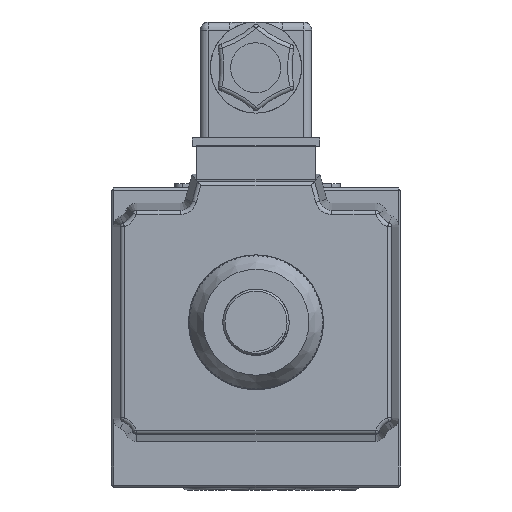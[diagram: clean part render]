
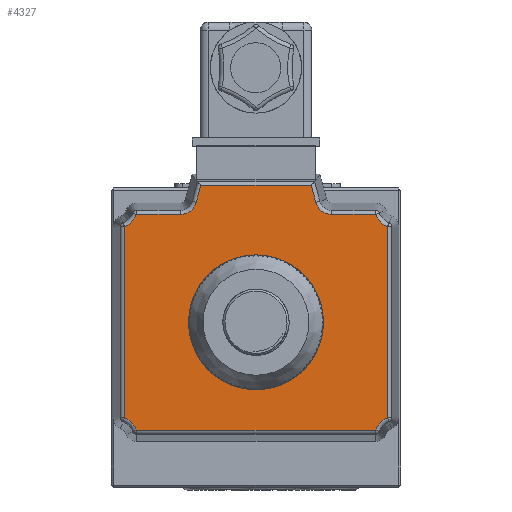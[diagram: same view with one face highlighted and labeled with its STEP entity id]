
A CAD part, left-side view. The second image highlights one B-rep face of the part: STEP entity #4327.
In plain terms, the highlighted planar face has unit normal (-1, 0, 0).
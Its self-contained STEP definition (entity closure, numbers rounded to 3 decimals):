
#4327=ADVANCED_FACE('',(#10130,#10131),#5651,.T.);
#5651=PLANE('',#25733);
#6465=LINE('',#34953,#8323);
#6466=LINE('',#34958,#8324);
#6467=LINE('',#34966,#8325);
#6468=LINE('',#34974,#8326);
#6469=LINE('',#34982,#8327);
#6470=LINE('',#34990,#8328);
#6471=LINE('',#34994,#8329);
#6472=LINE('',#34996,#8330);
#8323=VECTOR('',#28239,1.);
#8324=VECTOR('',#28242,1.);
#8325=VECTOR('',#28249,1.);
#8326=VECTOR('',#28256,1.);
#8327=VECTOR('',#28263,1.);
#8328=VECTOR('',#28270,1.);
#8329=VECTOR('',#28273,1.);
#8330=VECTOR('',#28274,1.);
#10130=FACE_BOUND('',#10552,.T.);
#10131=FACE_BOUND('',#10553,.T.);
#10552=EDGE_LOOP('',(#13291,#13292,#13293,#13294,#13295,#13296,#13297,#13298,
#13299,#13300,#13301,#13302,#13303,#13304,#13305,#13306,#13307,#13308,#13309,
#13310,#13311,#13312));
#10553=EDGE_LOOP('',(#13313));
#12093=CIRCLE('',#25718,3.959);
#12094=CIRCLE('',#25719,0.041);
#12095=CIRCLE('',#25720,4.959);
#12096=CIRCLE('',#25721,0.041);
#12097=CIRCLE('',#25722,0.041);
#12098=CIRCLE('',#25723,4.959);
#12099=CIRCLE('',#25724,0.041);
#12100=CIRCLE('',#25725,0.041);
#12101=CIRCLE('',#25726,4.959);
#12102=CIRCLE('',#25727,0.041);
#12103=CIRCLE('',#25728,0.041);
#12104=CIRCLE('',#25729,4.959);
#12105=CIRCLE('',#25730,0.041);
#12106=CIRCLE('',#25731,3.959);
#12107=CIRCLE('',#25732,13.);
#13291=ORIENTED_EDGE('',*,*,#22098,.T.);
#13292=ORIENTED_EDGE('',*,*,#22099,.T.);
#13293=ORIENTED_EDGE('',*,*,#22100,.T.);
#13294=ORIENTED_EDGE('',*,*,#22101,.T.);
#13295=ORIENTED_EDGE('',*,*,#22102,.T.);
#13296=ORIENTED_EDGE('',*,*,#22103,.T.);
#13297=ORIENTED_EDGE('',*,*,#22104,.T.);
#13298=ORIENTED_EDGE('',*,*,#22105,.T.);
#13299=ORIENTED_EDGE('',*,*,#22106,.T.);
#13300=ORIENTED_EDGE('',*,*,#22107,.T.);
#13301=ORIENTED_EDGE('',*,*,#22108,.T.);
#13302=ORIENTED_EDGE('',*,*,#22109,.T.);
#13303=ORIENTED_EDGE('',*,*,#22110,.T.);
#13304=ORIENTED_EDGE('',*,*,#22111,.T.);
#13305=ORIENTED_EDGE('',*,*,#22112,.T.);
#13306=ORIENTED_EDGE('',*,*,#22113,.T.);
#13307=ORIENTED_EDGE('',*,*,#22114,.T.);
#13308=ORIENTED_EDGE('',*,*,#22115,.T.);
#13309=ORIENTED_EDGE('',*,*,#22116,.T.);
#13310=ORIENTED_EDGE('',*,*,#22117,.T.);
#13311=ORIENTED_EDGE('',*,*,#22118,.T.);
#13312=ORIENTED_EDGE('',*,*,#22119,.T.);
#13313=ORIENTED_EDGE('',*,*,#22120,.F.);
#19853=VERTEX_POINT('',#34954);
#19854=VERTEX_POINT('',#34955);
#19855=VERTEX_POINT('',#34957);
#19856=VERTEX_POINT('',#34959);
#19857=VERTEX_POINT('',#34961);
#19858=VERTEX_POINT('',#34963);
#19859=VERTEX_POINT('',#34965);
#19860=VERTEX_POINT('',#34967);
#19861=VERTEX_POINT('',#34969);
#19862=VERTEX_POINT('',#34971);
#19863=VERTEX_POINT('',#34973);
#19864=VERTEX_POINT('',#34975);
#19865=VERTEX_POINT('',#34977);
#19866=VERTEX_POINT('',#34979);
#19867=VERTEX_POINT('',#34981);
#19868=VERTEX_POINT('',#34983);
#19869=VERTEX_POINT('',#34985);
#19870=VERTEX_POINT('',#34987);
#19871=VERTEX_POINT('',#34989);
#19872=VERTEX_POINT('',#34991);
#19873=VERTEX_POINT('',#34993);
#19874=VERTEX_POINT('',#34995);
#19875=VERTEX_POINT('',#34998);
#22098=EDGE_CURVE('',#19853,#19854,#6465,.T.);
#22099=EDGE_CURVE('',#19854,#19855,#12093,.T.);
#22100=EDGE_CURVE('',#19855,#19856,#6466,.T.);
#22101=EDGE_CURVE('',#19856,#19857,#12094,.T.);
#22102=EDGE_CURVE('',#19857,#19858,#12095,.T.);
#22103=EDGE_CURVE('',#19858,#19859,#12096,.T.);
#22104=EDGE_CURVE('',#19859,#19860,#6467,.T.);
#22105=EDGE_CURVE('',#19860,#19861,#12097,.T.);
#22106=EDGE_CURVE('',#19861,#19862,#12098,.T.);
#22107=EDGE_CURVE('',#19862,#19863,#12099,.T.);
#22108=EDGE_CURVE('',#19863,#19864,#6468,.T.);
#22109=EDGE_CURVE('',#19864,#19865,#12100,.T.);
#22110=EDGE_CURVE('',#19865,#19866,#12101,.T.);
#22111=EDGE_CURVE('',#19866,#19867,#12102,.T.);
#22112=EDGE_CURVE('',#19867,#19868,#6469,.T.);
#22113=EDGE_CURVE('',#19868,#19869,#12103,.T.);
#22114=EDGE_CURVE('',#19869,#19870,#12104,.T.);
#22115=EDGE_CURVE('',#19870,#19871,#12105,.T.);
#22116=EDGE_CURVE('',#19871,#19872,#6470,.T.);
#22117=EDGE_CURVE('',#19872,#19873,#12106,.T.);
#22118=EDGE_CURVE('',#19873,#19874,#6471,.T.);
#22119=EDGE_CURVE('',#19874,#19853,#6472,.T.);
#22120=EDGE_CURVE('',#19875,#19875,#12107,.T.);
#25718=AXIS2_PLACEMENT_3D('',#34956,#28240,#28241);
#25719=AXIS2_PLACEMENT_3D('',#34960,#28243,#28244);
#25720=AXIS2_PLACEMENT_3D('',#34962,#28245,#28246);
#25721=AXIS2_PLACEMENT_3D('',#34964,#28247,#28248);
#25722=AXIS2_PLACEMENT_3D('',#34968,#28250,#28251);
#25723=AXIS2_PLACEMENT_3D('',#34970,#28252,#28253);
#25724=AXIS2_PLACEMENT_3D('',#34972,#28254,#28255);
#25725=AXIS2_PLACEMENT_3D('',#34976,#28257,#28258);
#25726=AXIS2_PLACEMENT_3D('',#34978,#28259,#28260);
#25727=AXIS2_PLACEMENT_3D('',#34980,#28261,#28262);
#25728=AXIS2_PLACEMENT_3D('',#34984,#28264,#28265);
#25729=AXIS2_PLACEMENT_3D('',#34986,#28266,#28267);
#25730=AXIS2_PLACEMENT_3D('',#34988,#28268,#28269);
#25731=AXIS2_PLACEMENT_3D('',#34992,#28271,#28272);
#25732=AXIS2_PLACEMENT_3D('',#34997,#28275,#28276);
#25733=AXIS2_PLACEMENT_3D('',#34999,#28277,#28278);
#28239=DIRECTION('',(0.,0.259,-0.966));
#28240=DIRECTION('',(1.,0.,0.));
#28241=DIRECTION('',(0.,-1.,0.));
#28242=DIRECTION('',(0.,1.,0.));
#28243=DIRECTION('',(-1.,0.,0.));
#28244=DIRECTION('',(0.,-1.,0.));
#28245=DIRECTION('',(1.,0.,0.));
#28246=DIRECTION('',(0.,-1.,0.));
#28247=DIRECTION('',(-1.,0.,0.));
#28248=DIRECTION('',(0.,-1.,0.));
#28249=DIRECTION('',(0.,0.,-1.));
#28250=DIRECTION('',(-1.,0.,0.));
#28251=DIRECTION('',(0.,-1.,0.));
#28252=DIRECTION('',(1.,0.,0.));
#28253=DIRECTION('',(0.,-1.,0.));
#28254=DIRECTION('',(-1.,0.,0.));
#28255=DIRECTION('',(0.,-1.,0.));
#28256=DIRECTION('',(0.,-1.,0.));
#28257=DIRECTION('',(-1.,0.,0.));
#28258=DIRECTION('',(0.,-1.,0.));
#28259=DIRECTION('',(1.,0.,0.));
#28260=DIRECTION('',(0.,-1.,0.));
#28261=DIRECTION('',(-1.,0.,0.));
#28262=DIRECTION('',(0.,-1.,0.));
#28263=DIRECTION('',(0.,0.,1.));
#28264=DIRECTION('',(-1.,0.,0.));
#28265=DIRECTION('',(0.,-1.,0.));
#28266=DIRECTION('',(1.,0.,0.));
#28267=DIRECTION('',(0.,-1.,0.));
#28268=DIRECTION('',(-1.,0.,0.));
#28269=DIRECTION('',(0.,-1.,0.));
#28270=DIRECTION('',(0.,1.,0.));
#28271=DIRECTION('',(1.,0.,0.));
#28272=DIRECTION('',(0.,-1.,0.));
#28273=DIRECTION('',(0.,0.259,0.966));
#28274=DIRECTION('',(0.,1.,0.));
#28275=DIRECTION('',(-1.,0.,0.));
#28276=DIRECTION('',(0.,-1.,0.));
#28277=DIRECTION('',(-1.,0.,0.));
#28278=DIRECTION('',(0.,1.,0.));
#34953=CARTESIAN_POINT('',(-41.7,63.613,-56.407));
#34954=CARTESIAN_POINT('',(-41.7,48.354,0.541));
#34955=CARTESIAN_POINT('',(-41.7,49.443,-3.525));
#34956=CARTESIAN_POINT('',(-41.7,53.267,-2.5));
#34957=CARTESIAN_POINT('',(-41.7,53.267,-6.459));
#34958=CARTESIAN_POINT('',(-41.7,66.75,-6.459));
#34959=CARTESIAN_POINT('',(-41.7,63.816,-6.459));
#34960=CARTESIAN_POINT('',(-41.7,63.816,-6.5));
#34961=CARTESIAN_POINT('',(-41.7,63.855,-6.486));
#34962=CARTESIAN_POINT('',(-41.7,68.5,-4.75));
#34963=CARTESIAN_POINT('',(-41.7,66.764,-9.395));
#34964=CARTESIAN_POINT('',(-41.7,66.75,-9.434));
#34965=CARTESIAN_POINT('',(-41.7,66.791,-9.434));
#34966=CARTESIAN_POINT('',(-41.7,66.791,-55.566));
#34967=CARTESIAN_POINT('',(-41.7,66.791,-55.566));
#34968=CARTESIAN_POINT('',(-41.7,66.75,-55.566));
#34969=CARTESIAN_POINT('',(-41.7,66.764,-55.605));
#34970=CARTESIAN_POINT('',(-41.7,68.5,-60.25));
#34971=CARTESIAN_POINT('',(-41.7,63.855,-58.514));
#34972=CARTESIAN_POINT('',(-41.7,63.816,-58.5));
#34973=CARTESIAN_POINT('',(-41.7,63.816,-58.541));
#34974=CARTESIAN_POINT('',(-41.7,66.75,-58.541));
#34975=CARTESIAN_POINT('',(-41.7,6.184,-58.541));
#34976=CARTESIAN_POINT('',(-41.7,6.184,-58.5));
#34977=CARTESIAN_POINT('',(-41.7,6.145,-58.514));
#34978=CARTESIAN_POINT('',(-41.7,1.5,-60.25));
#34979=CARTESIAN_POINT('',(-41.7,3.236,-55.605));
#34980=CARTESIAN_POINT('',(-41.7,3.25,-55.566));
#34981=CARTESIAN_POINT('',(-41.7,3.209,-55.566));
#34982=CARTESIAN_POINT('',(-41.7,3.209,-55.566));
#34983=CARTESIAN_POINT('',(-41.7,3.209,-9.434));
#34984=CARTESIAN_POINT('',(-41.7,3.25,-9.434));
#34985=CARTESIAN_POINT('',(-41.7,3.236,-9.395));
#34986=CARTESIAN_POINT('',(-41.7,1.5,-4.75));
#34987=CARTESIAN_POINT('',(-41.7,6.145,-6.486));
#34988=CARTESIAN_POINT('',(-41.7,6.184,-6.5));
#34989=CARTESIAN_POINT('',(-41.7,6.184,-6.459));
#34990=CARTESIAN_POINT('',(-41.7,66.75,-6.459));
#34991=CARTESIAN_POINT('',(-41.7,16.733,-6.459));
#34992=CARTESIAN_POINT('',(-41.7,16.733,-2.5));
#34993=CARTESIAN_POINT('',(-41.7,20.557,-3.525));
#34994=CARTESIAN_POINT('',(-41.7,10.641,-40.532));
#34995=CARTESIAN_POINT('',(-41.7,21.646,0.541));
#34996=CARTESIAN_POINT('',(-41.7,66.75,0.541));
#34997=CARTESIAN_POINT('',(-41.7,35.,-32.5));
#34998=CARTESIAN_POINT('',(-41.7,22.,-32.5));
#34999=CARTESIAN_POINT('',(-41.7,66.75,-55.566));
